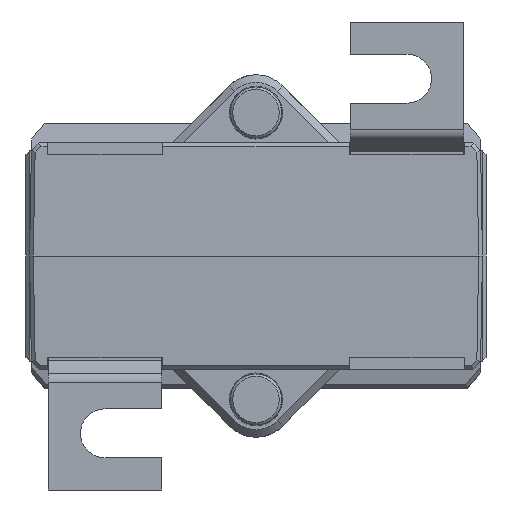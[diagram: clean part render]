
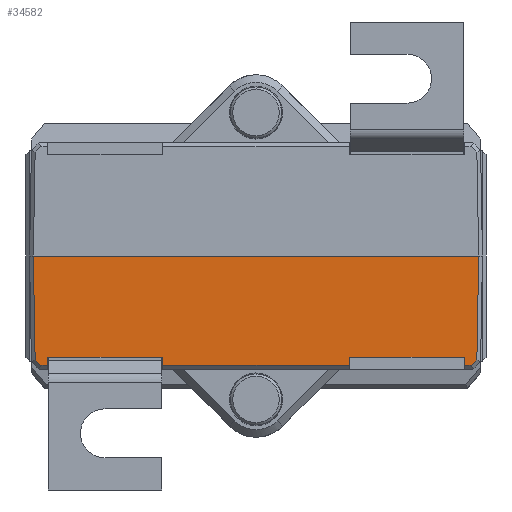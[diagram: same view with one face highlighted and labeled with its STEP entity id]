
A CAD part, front view. The second image highlights one B-rep face of the part: STEP entity #34582.
In plain terms, the highlighted planar face has unit normal (0, -1, -0.018) as drawn and (0, -1, 0.017) by its records, which use the part's own axes.
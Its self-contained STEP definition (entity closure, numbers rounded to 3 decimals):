
#34579 = EDGE_LOOP ( 'NONE', ( #34752, #34722, #35046, #34635, #34736, #35055, #34661, #34654, #34653, #34988, #34948, #34987, #34890, #34883 ) ) ;
#34582 = ADVANCED_FACE ( 'NONE', ( #80491 ), #80496, .T. ) ;
#34612 = EDGE_CURVE ( 'NONE', #34819, #34763, #80489, .T. ) ;
#34628 = EDGE_CURVE ( 'NONE', #34751, #34819, #80479, .T. ) ;
#34635 = ORIENTED_EDGE ( 'NONE', *, *, #34857, .T. ) ;
#34637 = EDGE_CURVE ( 'NONE', #34738, #34747, #80475, .T. ) ;
#34653 = ORIENTED_EDGE ( 'NONE', *, *, #34996, .T. ) ;
#34654 = ORIENTED_EDGE ( 'NONE', *, *, #34778, .T. ) ;
#34661 = ORIENTED_EDGE ( 'NONE', *, *, #48651, .T. ) ;
#34706 = VERTEX_POINT ( 'NONE', #80519 ) ;
#34722 = ORIENTED_EDGE ( 'NONE', *, *, #34612, .F. ) ;
#34736 = ORIENTED_EDGE ( 'NONE', *, *, #34637, .T. ) ;
#34738 = VERTEX_POINT ( 'NONE', #80509 ) ;
#34747 = VERTEX_POINT ( 'NONE', #80505 ) ;
#34751 = VERTEX_POINT ( 'NONE', #80504 ) ;
#34752 = ORIENTED_EDGE ( 'NONE', *, *, #34805, .F. ) ;
#34755 = VERTEX_POINT ( 'NONE', #80513 ) ;
#34763 = VERTEX_POINT ( 'NONE', #80510 ) ;
#34764 = VERTEX_POINT ( 'NONE', #80520 ) ;
#34776 = EDGE_CURVE ( 'NONE', #34747, #48664, #80502, .T. ) ;
#34778 = EDGE_CURVE ( 'NONE', #48626, #35008, #80558, .T. ) ;
#34805 = EDGE_CURVE ( 'NONE', #34763, #34764, #80546, .T. ) ;
#34819 = VERTEX_POINT ( 'NONE', #80542 ) ;
#34857 = EDGE_CURVE ( 'NONE', #34751, #34738, #80538, .T. ) ;
#34867 = VERTEX_POINT ( 'NONE', #80541 ) ;
#34883 = ORIENTED_EDGE ( 'NONE', *, *, #34968, .T. ) ;
#34890 = ORIENTED_EDGE ( 'NONE', *, *, #34977, .F. ) ;
#34948 = ORIENTED_EDGE ( 'NONE', *, *, #35015, .F. ) ;
#34950 = EDGE_CURVE ( 'NONE', #35025, #34755, #80530, .T. ) ;
#34968 = EDGE_CURVE ( 'NONE', #35024, #34764, #80594, .T. ) ;
#34977 = EDGE_CURVE ( 'NONE', #35024, #34755, #80590, .T. ) ;
#34987 = ORIENTED_EDGE ( 'NONE', *, *, #34950, .T. ) ;
#34988 = ORIENTED_EDGE ( 'NONE', *, *, #35039, .T. ) ;
#34996 = EDGE_CURVE ( 'NONE', #35008, #34867, #80586, .T. ) ;
#35008 = VERTEX_POINT ( 'NONE', #80580 ) ;
#35015 = EDGE_CURVE ( 'NONE', #35025, #34706, #80575, .T. ) ;
#35024 = VERTEX_POINT ( 'NONE', #80573 ) ;
#35025 = VERTEX_POINT ( 'NONE', #80562 ) ;
#35039 = EDGE_CURVE ( 'NONE', #34867, #34706, #80566, .T. ) ;
#35046 = ORIENTED_EDGE ( 'NONE', *, *, #34628, .F. ) ;
#35055 = ORIENTED_EDGE ( 'NONE', *, *, #34776, .T. ) ;
#48626 = VERTEX_POINT ( 'NONE', #54440 ) ;
#48651 = EDGE_CURVE ( 'NONE', #48664, #48626, #54588, .T. ) ;
#48664 = VERTEX_POINT ( 'NONE', #54563 ) ;
#54440 = CARTESIAN_POINT ( 'NONE',  ( 29.5, -32., 0. ) ) ;
#54563 = CARTESIAN_POINT ( 'NONE',  ( -29.5, -32., 0. ) ) ;
#54581 = DIRECTION ( 'NONE',  ( 1., 0., 0. ) ) ;
#54582 = VECTOR ( 'NONE', #54581, 1000. ) ;
#54583 = CARTESIAN_POINT ( 'NONE',  ( -30., -32., 0. ) ) ;
#54588 = LINE ( 'NONE', #54583, #54582 ) ;
#80472 = DIRECTION ( 'NONE',  ( -0.719, -0.012, -0.695 ) ) ;
#80473 = VECTOR ( 'NONE', #80472, 1000. ) ;
#80474 = CARTESIAN_POINT ( 'NONE',  ( -29.404, -31.762, 13.636 ) ) ;
#80475 = LINE ( 'NONE', #80474, #80473 ) ;
#80476 = DIRECTION ( 'NONE',  ( 0.009, -0.017, -1. ) ) ;
#80477 = VECTOR ( 'NONE', #80476, 1000. ) ;
#80478 = CARTESIAN_POINT ( 'NONE',  ( -27.491, -32., 0.022 ) ) ;
#80479 = LINE ( 'NONE', #80478, #80477 ) ;
#80481 = DIRECTION ( 'NONE',  ( 1., 0., 0. ) ) ;
#80482 = VECTOR ( 'NONE', #80481, 1000. ) ;
#80484 = AXIS2_PLACEMENT_3D ( 'NONE', #80498, #80487, #80486 ) ;
#80486 = DIRECTION ( 'NONE',  ( 0., -0.017, -1. ) ) ;
#80487 = DIRECTION ( 'NONE',  ( 0., -1., 0.017 ) ) ;
#80488 = CARTESIAN_POINT ( 'NONE',  ( -30., -31.766, 13.4 ) ) ;
#80489 = LINE ( 'NONE', #80488, #80482 ) ;
#80491 = FACE_OUTER_BOUND ( 'NONE', #34579, .T. ) ;
#80496 = PLANE ( 'NONE',  #80484 ) ;
#80498 = CARTESIAN_POINT ( 'NONE',  ( -30., -32., 0. ) ) ;
#80499 = DIRECTION ( 'NONE',  ( -0.017, -0.017, -1. ) ) ;
#80500 = VECTOR ( 'NONE', #80499, 1000. ) ;
#80501 = CARTESIAN_POINT ( 'NONE',  ( -29.5, -32., -0.009 ) ) ;
#80502 = LINE ( 'NONE', #80501, #80500 ) ;
#80504 = CARTESIAN_POINT ( 'NONE',  ( -27.618, -31.747, 14.5 ) ) ;
#80505 = CARTESIAN_POINT ( 'NONE',  ( -29.259, -31.76, 13.776 ) ) ;
#80509 = CARTESIAN_POINT ( 'NONE',  ( -28.509, -31.747, 14.5 ) ) ;
#80510 = CARTESIAN_POINT ( 'NONE',  ( -12.392, -31.766, 13.4 ) ) ;
#80513 = CARTESIAN_POINT ( 'NONE',  ( 12.392, -31.766, 13.4 ) ) ;
#80519 = CARTESIAN_POINT ( 'NONE',  ( 27.618, -31.747, 14.5 ) ) ;
#80520 = CARTESIAN_POINT ( 'NONE',  ( -12.382, -31.747, 14.5 ) ) ;
#80529 = CARTESIAN_POINT ( 'NONE',  ( -30., -31.766, 13.4 ) ) ;
#80530 = LINE ( 'NONE', #80529, #80531 ) ;
#80531 = VECTOR ( 'NONE', #80534, 1000. ) ;
#80534 = DIRECTION ( 'NONE',  ( -1., 0., 0. ) ) ;
#80535 = DIRECTION ( 'NONE',  ( -1., 0., 0. ) ) ;
#80536 = VECTOR ( 'NONE', #80535, 1000. ) ;
#80537 = CARTESIAN_POINT ( 'NONE',  ( -28.72, -31.747, 14.5 ) ) ;
#80538 = LINE ( 'NONE', #80537, #80536 ) ;
#80541 = CARTESIAN_POINT ( 'NONE',  ( 28.509, -31.747, 14.5 ) ) ;
#80542 = CARTESIAN_POINT ( 'NONE',  ( -27.608, -31.766, 13.4 ) ) ;
#80543 = DIRECTION ( 'NONE',  ( 0.009, 0.017, 1. ) ) ;
#80544 = VECTOR ( 'NONE', #80543, 1000. ) ;
#80545 = CARTESIAN_POINT ( 'NONE',  ( -12.51, -32.003, -0.153 ) ) ;
#80546 = LINE ( 'NONE', #80545, #80544 ) ;
#80555 = DIRECTION ( 'NONE',  ( -0.017, 0.017, 1. ) ) ;
#80556 = VECTOR ( 'NONE', #80555, 1000. ) ;
#80557 = CARTESIAN_POINT ( 'NONE',  ( 29.482, -31.982, 1.038 ) ) ;
#80558 = LINE ( 'NONE', #80557, #80556 ) ;
#80562 = CARTESIAN_POINT ( 'NONE',  ( 27.608, -31.766, 13.4 ) ) ;
#80566 = LINE ( 'NONE', #80621, #80620 ) ;
#80568 = DIRECTION ( 'NONE',  ( 0.009, 0.017, 1. ) ) ;
#80569 = VECTOR ( 'NONE', #80568, 1000. ) ;
#80573 = CARTESIAN_POINT ( 'NONE',  ( 12.382, -31.747, 14.5 ) ) ;
#80574 = CARTESIAN_POINT ( 'NONE',  ( 27.487, -32.009, -0.502 ) ) ;
#80575 = LINE ( 'NONE', #80574, #80569 ) ;
#80576 = DIRECTION ( 'NONE',  ( -0.719, 0.012, 0.695 ) ) ;
#80577 = VECTOR ( 'NONE', #80576, 1000. ) ;
#80580 = CARTESIAN_POINT ( 'NONE',  ( 29.259, -31.76, 13.775 ) ) ;
#80585 = CARTESIAN_POINT ( 'NONE',  ( 28.368, -31.745, 14.636 ) ) ;
#80586 = LINE ( 'NONE', #80585, #80577 ) ;
#80587 = DIRECTION ( 'NONE',  ( 0.009, -0.017, -1. ) ) ;
#80588 = VECTOR ( 'NONE', #80587, 1000. ) ;
#80589 = CARTESIAN_POINT ( 'NONE',  ( 12.505, -31.994, 0.371 ) ) ;
#80590 = LINE ( 'NONE', #80589, #80588 ) ;
#80591 = DIRECTION ( 'NONE',  ( -1., 0., 0. ) ) ;
#80592 = VECTOR ( 'NONE', #80591, 1000. ) ;
#80593 = CARTESIAN_POINT ( 'NONE',  ( -28.72, -31.747, 14.5 ) ) ;
#80594 = LINE ( 'NONE', #80593, #80592 ) ;
#80619 = DIRECTION ( 'NONE',  ( -1., 0., 0. ) ) ;
#80620 = VECTOR ( 'NONE', #80619, 1000. ) ;
#80621 = CARTESIAN_POINT ( 'NONE',  ( -28.72, -31.747, 14.5 ) ) ;
